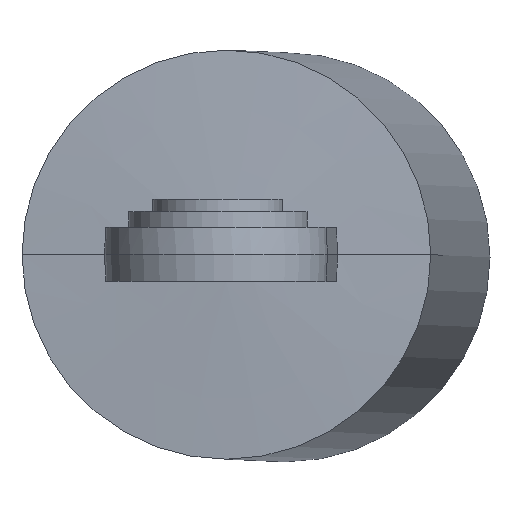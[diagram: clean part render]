
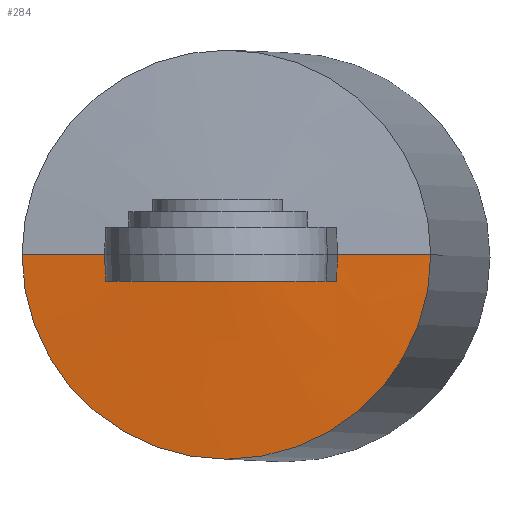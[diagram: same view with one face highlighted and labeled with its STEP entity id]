
A CAD part, top view. The second image highlights one B-rep face of the part: STEP entity #284.
In plain terms, the highlighted conical face has half-angle 87 degrees and reference radius 110 mm.
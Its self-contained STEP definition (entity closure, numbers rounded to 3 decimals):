
#63 = CARTESIAN_POINT ( 'NONE',  ( 250.203, 256.5, 1980.013 ) ) ;
#67 = CARTESIAN_POINT ( 'NONE',  ( 309.32, 256.5, 1984.55 ) ) ;
#73 = CARTESIAN_POINT ( 'NONE',  ( 294.508, 256.5, 1983.82 ) ) ;
#84 = EDGE_LOOP ( 'NONE', ( #1049, #554, #606, #868, #170, #1047 ) ) ;
#107 = DIRECTION ( 'NONE',  ( 0.999, 0., 0.04 ) ) ;
#112 = CARTESIAN_POINT ( 'NONE',  ( 414.491, 271., 1983.722 ) ) ;
#122 = CONICAL_SURFACE ( 'NONE', #586, 110., 1.518 ) ;
#138 = CARTESIAN_POINT ( 'NONE',  ( 244.773, 266.167, 1979.611 ) ) ;
#170 = ORIENTED_EDGE ( 'NONE', *, *, #988, .T. ) ;
#191 = DIRECTION ( 'NONE',  ( 0.04, 0., -0.999 ) ) ;
#194 = VECTOR ( 'NONE', #1203, 1000. ) ;
#222 = VECTOR ( 'NONE', #499, 1000. ) ;
#224 = CARTESIAN_POINT ( 'NONE',  ( 364.426, 271., 1984.355 ) ) ;
#237 = B_SPLINE_CURVE_WITH_KNOTS ( 'NONE', 3,
 ( #1293, #850, #138, #653 ),
 .UNSPECIFIED., .F., .F.,
 ( 4, 4 ),
 ( 0., 0.015 ),
 .UNSPECIFIED. ) ;
#262 = B_SPLINE_CURVE_WITH_KNOTS ( 'NONE', 3,
 ( #224, #978, #421, #870 ),
 .UNSPECIFIED., .F., .F.,
 ( 4, 4 ),
 ( 0., 0.015 ),
 .UNSPECIFIED. ) ;
#284 = ADVANCED_FACE ( 'NONE', ( #1308 ), #122, .T. ) ;
#288 = VERTEX_POINT ( 'NONE', #1410 ) ;
#377 = CARTESIAN_POINT ( 'NONE',  ( 279.733, 256.5, 1982.637 ) ) ;
#408 = CARTESIAN_POINT ( 'NONE',  ( 269.888, 256.5, 1981.781 ) ) ;
#421 = CARTESIAN_POINT ( 'NONE',  ( 363.92, 261.333, 1984.33 ) ) ;
#450 = VERTEX_POINT ( 'NONE', #855 ) ;
#462 = LINE ( 'NONE', #112, #194 ) ;
#496 = CARTESIAN_POINT ( 'NONE',  ( 194.664, 271., 1974.984 ) ) ;
#499 = DIRECTION ( 'NONE',  ( -0.996, 0., -0.092 ) ) ;
#511 = CARTESIAN_POINT ( 'NONE',  ( 353.787, 256.5, 1984.381 ) ) ;
#536 = EDGE_CURVE ( 'NONE', #977, #813, #237, .T. ) ;
#554 = ORIENTED_EDGE ( 'NONE', *, *, #1396, .T. ) ;
#586 = AXIS2_PLACEMENT_3D ( 'NONE', #598, #191, #704 ) ;
#598 = CARTESIAN_POINT ( 'NONE',  ( 304.577, 271., 1979.353 ) ) ;
#606 = ORIENTED_EDGE ( 'NONE', *, *, #1235, .T. ) ;
#607 = CARTESIAN_POINT ( 'NONE',  ( 244.521, 271., 1979.588 ) ) ;
#614 = CARTESIAN_POINT ( 'NONE',  ( 343.906, 256.5, 1984.48 ) ) ;
#653 = CARTESIAN_POINT ( 'NONE',  ( 244.521, 271., 1979.588 ) ) ;
#692 = CARTESIAN_POINT ( 'NONE',  ( 245.282, 256.5, 1979.566 ) ) ;
#704 = DIRECTION ( 'NONE',  ( -0.999, 0., -0.04 ) ) ;
#727 = CARTESIAN_POINT ( 'NONE',  ( 245.282, 256.5, 1979.566 ) ) ;
#745 = DIRECTION ( 'NONE',  ( 0.04, 0., -0.999 ) ) ;
#761 = AXIS2_PLACEMENT_3D ( 'NONE', #1318, #745, #107 ) ;
#768 = CIRCLE ( 'NONE', #761, 110. ) ;
#813 = VERTEX_POINT ( 'NONE', #607 ) ;
#844 = CARTESIAN_POINT ( 'NONE',  ( 329.083, 256.5, 1984.599 ) ) ;
#850 = CARTESIAN_POINT ( 'NONE',  ( 245.027, 261.333, 1979.604 ) ) ;
#855 = CARTESIAN_POINT ( 'NONE',  ( 194.664, 271., 1974.984 ) ) ;
#868 = ORIENTED_EDGE ( 'NONE', *, *, #536, .T. ) ;
#870 = CARTESIAN_POINT ( 'NONE',  ( 363.669, 256.5, 1984.273 ) ) ;
#907 = VERTEX_POINT ( 'NONE', #1071 ) ;
#934 = CARTESIAN_POINT ( 'NONE',  ( 264.966, 256.5, 1981.342 ) ) ;
#959 = CARTESIAN_POINT ( 'NONE',  ( 314.261, 256.5, 1984.605 ) ) ;
#977 = VERTEX_POINT ( 'NONE', #727 ) ;
#978 = CARTESIAN_POINT ( 'NONE',  ( 364.172, 266.167, 1984.358 ) ) ;
#988 = EDGE_CURVE ( 'NONE', #813, #450, #1352, .T. ) ;
#1017 = EDGE_CURVE ( 'NONE', #1325, #450, #768, .T. ) ;
#1027 = CARTESIAN_POINT ( 'NONE',  ( 284.656, 256.5, 1983.058 ) ) ;
#1044 = EDGE_CURVE ( 'NONE', #288, #1325, #462, .T. ) ;
#1047 = ORIENTED_EDGE ( 'NONE', *, *, #1017, .F. ) ;
#1049 = ORIENTED_EDGE ( 'NONE', *, *, #1044, .F. ) ;
#1071 = CARTESIAN_POINT ( 'NONE',  ( 363.669, 256.5, 1984.273 ) ) ;
#1158 = CARTESIAN_POINT ( 'NONE',  ( 324.143, 256.5, 1984.628 ) ) ;
#1177 = CARTESIAN_POINT ( 'NONE',  ( 299.438, 256.5, 1984.158 ) ) ;
#1185 = CARTESIAN_POINT ( 'NONE',  ( 363.669, 256.5, 1984.273 ) ) ;
#1203 = DIRECTION ( 'NONE',  ( 1., 0., -0.013 ) ) ;
#1235 = EDGE_CURVE ( 'NONE', #907, #977, #1349, .T. ) ;
#1260 = CARTESIAN_POINT ( 'NONE',  ( 338.965, 256.5, 1984.527 ) ) ;
#1264 = CARTESIAN_POINT ( 'NONE',  ( 414.491, 271., 1983.722 ) ) ;
#1286 = CARTESIAN_POINT ( 'NONE',  ( 358.728, 256.5, 1984.328 ) ) ;
#1293 = CARTESIAN_POINT ( 'NONE',  ( 245.282, 256.5, 1979.566 ) ) ;
#1308 = FACE_OUTER_BOUND ( 'NONE', #84, .T. ) ;
#1318 = CARTESIAN_POINT ( 'NONE',  ( 304.577, 271., 1979.353 ) ) ;
#1325 = VERTEX_POINT ( 'NONE', #1264 ) ;
#1349 = B_SPLINE_CURVE_WITH_KNOTS ( 'NONE', 3,
 ( #1185, #1286, #511, #614, #1260, #844, #1158, #959, #67, #1177, #73, #1027, #377, #408, #934, #1415, #63, #692 ),
 .UNSPECIFIED., .F., .F.,
 ( 4, 2, 2, 2, 2, 2, 2, 2, 4 ),
 ( 0., 0.015, 0.03, 0.044, 0.059, 0.074, 0.089, 0.104, 0.119 ),
 .UNSPECIFIED. ) ;
#1352 = LINE ( 'NONE', #496, #222 ) ;
#1396 = EDGE_CURVE ( 'NONE', #288, #907, #262, .T. ) ;
#1410 = CARTESIAN_POINT ( 'NONE',  ( 364.426, 271., 1984.355 ) ) ;
#1415 = CARTESIAN_POINT ( 'NONE',  ( 255.124, 256.5, 1980.459 ) ) ;
